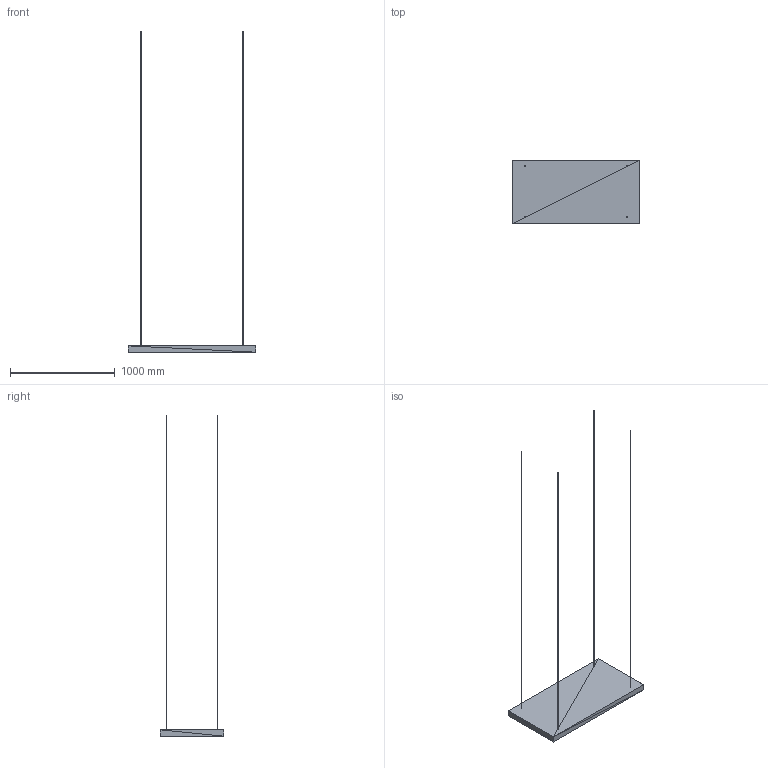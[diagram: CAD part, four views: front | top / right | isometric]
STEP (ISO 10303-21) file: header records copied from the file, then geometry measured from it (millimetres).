
FILE_DESCRIPTION(('ISINAC STEP AP214'),'2;1');
FILE_NAME('ISINAC_R.1220.610_60mm_COLGADO','2026-05-03T10:49:19',('ISINAC'),('www.isinac.com'),'ISINAC BIM Generator 1.0','','');
FILE_SCHEMA(('AUTOMOTIVE_DESIGN'));
Length unit declared in the file: millimetre
Products named in the file (1): ISINAC_R.1220.610_60mm_COLGADO
Bounding box: 1220 x 610 x 3060 mm (x, y, z)
Surface area: 1816046 mm2 (no closed solid volume)
Topology: 0 solids, 92 shells, 92 faces, 276 edges, 276 vertices
Faces by surface type: plane 92
Entity records: 1025 total; most frequent: CARTESIAN_POINT 368, DIRECTION 184, POLY_LOOP 92, FACE_OUTER_BOUND 92, AXIS2_PLACEMENT_3D 92, PLANE 92, FACE_SURFACE 92, CLOSED_SHELL 1
